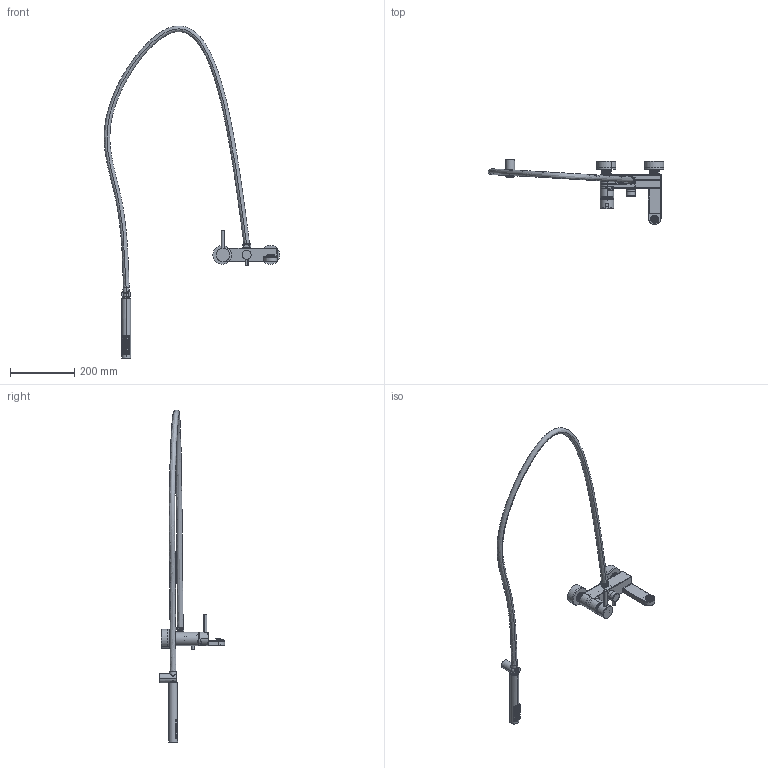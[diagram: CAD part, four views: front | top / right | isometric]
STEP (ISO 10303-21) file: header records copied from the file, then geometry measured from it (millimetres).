
FILE_DESCRIPTION (( 'STEP AP214' ), '1' );
FILE_NAME ('W01302.STEP', '2020-02-03T02:10:36', ( '微软用户' ), ( '微软中国' ), 'SwSTEP 2.0', 'SolidWorks 2014', '' );
FILE_SCHEMA (( 'AUTOMOTIVE_DESIGN' ));
Length unit declared in the file: millimetre
Products named in the file (20): 阨弇蹟譫(鞠褒); 8703花洒; W01302; 圆形花洒座12423; 花洒管18; 9103忒謫裝ㄗ35郋ㄘ; 9103忒梟(35郋); M37X1.25两级压盖（新）; D35G; 棟郋3; 01302翋极11; 菁諉挴(陔); 忒謫裝542; 忒謫541; 24厙郲杶; 24厙郋; M24X1两级网嘴胶圈; 覃恲戚(埴翐倛); M30X1蚾庉戚.bak; 阨弇褐
Assembly tree (22 placements, depth 2):
  W01302
    阨弇蹟譫(鞠褒)  x2
    阨弇褐  x2
    M30X1蚾庉戚.bak
    覃恲戚(埴翐倛)  x2
    M24X1两级网嘴胶圈
    24厙郋
    24厙郲杶
    忒謫541
    忒謫裝542
    菁諉挴(陔)
    01302翋极11
    棟郋3
    D35G
    M37X1.25两级压盖（新）
    9103忒梟(35郋)
    9103忒謫裝ㄗ35郋ㄘ
    花洒管18
    圆形花洒座12423
    8703花洒
Bounding box: 548.8 x 204.49 x 1037.46 mm (x, y, z)
Volume: 844295.5 mm3; surface area: 322042.5 mm2
Topology: 23 solids, 26 shells, 3667 faces, 12679 edges, 8399 vertices
Faces by surface type: plane 1890, cylinder 1518, cone 138, bspline 77, torus 42, sphere 2
Entity records: 185606 total; most frequent: CARTESIAN_POINT 81239, ORIENTED_EDGE 24806, DIRECTION 17816, EDGE_CURVE 12405, VERTEX_POINT 8230, AXIS2_PLACEMENT_3D 6053, LINE 5710, VECTOR 5710
